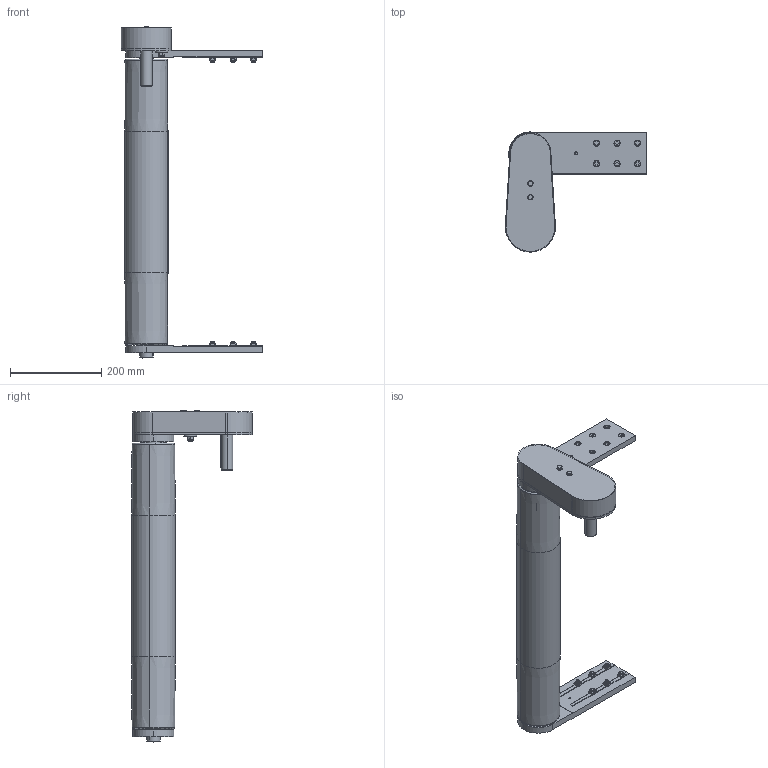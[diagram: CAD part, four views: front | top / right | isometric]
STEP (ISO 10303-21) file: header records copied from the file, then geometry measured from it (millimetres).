
FILE_DESCRIPTION (( 'STEP AP203' ), '1' );
FILE_NAME ('084.095.KTB.49.600.step', '2013-02-28T12:02:19', ( '' ), ( '' ), 'SwSTEP 2.0', 'SolidWorks 2011', '' );
FILE_SCHEMA (( 'CONFIG_CONTROL_DESIGN' ));
Length unit declared in the file: millimetre
Products named in the file (28): 084.095.KTB.49.600; Hex Screw GradeC_ALUSIC_ISO 4018 - M8 x 20-NS; Hex Screw GradeC_ALUSIC_ISO 4018 - M6 x 50-NS; ANELLI ELASTICI PER ESTERNI UNI 7435-75_Circlip DIN 471 - 30 x 1.5; CHIAVETTE_A 8x7x25 UNI 6604-69; CHIAVETTE_A 8x7x70 UNI 6604-69; Specchiatura084.302.000 DADI ALUSIC 13x13_084.302.004; 084.301.000 VITI ALUSIC_084.301.003; 084.302.000 DADI ALUSIC 13x13_084.302.004; 084.821.003; 084.810.006; Circlip for Shafts normal_din_Circlip DIN 471 - 8 x 0.8; Plain Washer XLarge Grade C_ALUSIC_Washer ISO 7094 - 8; Torque nut 01_ALUSIC_ISO 7040-M8-S; CUSCINETTI A SFERE_608-2RS; 084.810.008; 084.816.110_084.816.110<A macchina>; 084.813.005; 084.809.002; 084.821.002; 084.809.003; 084.813.002; 084.812.003; 084.802.019_084.802.019; 084.802.034_084.802.034; 084.808.002_084.808.002; 084.810.003; 084.808.003_084.808.003
Assembly tree (59 placements, depth 3):
  084.095.KTB.49.600
    Specchiatura084.302.000 DADI ALUSIC 13x13_084.302.004  x6
    084.301.000 VITI ALUSIC_084.301.003  x12
    084.302.000 DADI ALUSIC 13x13_084.302.004  x6
    Hex Screw GradeC_ALUSIC_ISO 4018 - M8 x 20-NS  x4
    084.821.002  x2
    084.812.003
    084.809.002
    084.813.002
    084.810.006
      Plain Washer XLarge Grade C_ALUSIC_Washer ISO 7094 - 8
      Torque nut 01_ALUSIC_ISO 7040-M8-S
      Circlip for Shafts normal_din_Circlip DIN 471 - 8 x 0.8
      CUSCINETTI A SFERE_608-2RS  x3
      084.810.008
    084.802.034_084.802.034
    084.810.003  x2
    CHIAVETTE_A 8x7x25 UNI 6604-69  x3
    084.809.003
    084.808.002_084.808.002
    084.808.003_084.808.003
    Hex Screw GradeC_ALUSIC_ISO 4018 - M6 x 50-NS  x2
    084.813.005
    084.821.003
    ANELLI ELASTICI PER ESTERNI UNI 7435-75_Circlip DIN 471 - 30 x 1.5  x2
    CHIAVETTE_A 8x7x70 UNI 6604-69
    084.802.019_084.802.019
    084.816.110_084.816.110<A macchina>
Bounding box: 310 x 263.99 x 727.88 mm (x, y, z)
Volume: 2399083 mm3; surface area: 1086620 mm2
Topology: 63 solids, 64 shells, 2827 faces, 7309 edges, 4678 vertices
Faces by surface type: cylinder 1022, plane 857, cone 817, torus 122, sphere 9
Entity records: 54510 total; most frequent: CARTESIAN_POINT 9764, DIRECTION 9204, ORIENTED_EDGE 8304, EDGE_CURVE 4152, AXIS2_PLACEMENT_3D 3521, VERTEX_POINT 2673, VECTOR 2162, LINE 2162
